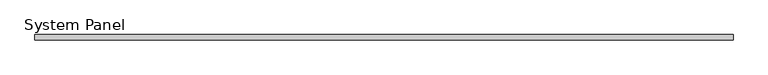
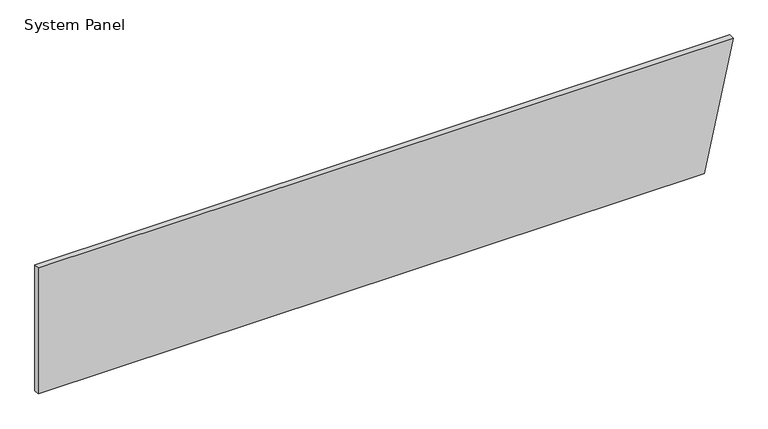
"""IFC4 building model written with IfcOpenShell, lengths in millimetres: plate geometry, System Panel : Equitilt_FlameGuard_50mm_Plain_Surfmist."""

from ifc_helpers import new_model, si_unit, frame, origin, place, context, project, spatial, polyline, outline, extrude, source, transform, mapped, element, save


def system_panel_101b86df(model_context):
    return source(origin(), model_context, "Body", "SweptSolid", [
        extrude(outline(polyline([(0.0, -3125.4358309), (0.0, 2864.5641691), (1200.0, 3125.4358309), (1200.0, -3125.4358309), (0.0, -3125.4358309)])), frame((0.0, -50.0, 0.0), z_axis=(0.0, 1.0, 0.0), x_axis=(0.0, 0.0, 1.0)), (0.0, 0.0, 1.0), 50.0),
    ])


if __name__ == "__main__":
    model = new_model("IFC4")
    model_context = context("Model", 3, world=origin())
    ifc_project = project(units=[si_unit("LENGTHUNIT", "METRE", prefix="MILLI")], contexts=[model_context])
    site = spatial("IfcSite", under=ifc_project)
    building = spatial("IfcBuilding", under=site)
    placement = place(None, origin())
    system_panel_shape = system_panel_101b86df(model_context)
    element("IfcPlate", 1, ObjectType="System Panel : Equitilt_FlameGuard_50mm_Plain_Surfmist", at=placement, inside=building, context=model_context, shape_type="MappedRepresentation", body=[
        mapped(system_panel_shape, transform((0.0, 0.0, 0.0), x_axis=(1.0, 0.0, 0.0), y_axis=(0.0, 1.0, 0.0), z_axis=(0.0, 0.0, 1.0))),
    ])
    save(model, "model.ifc")
